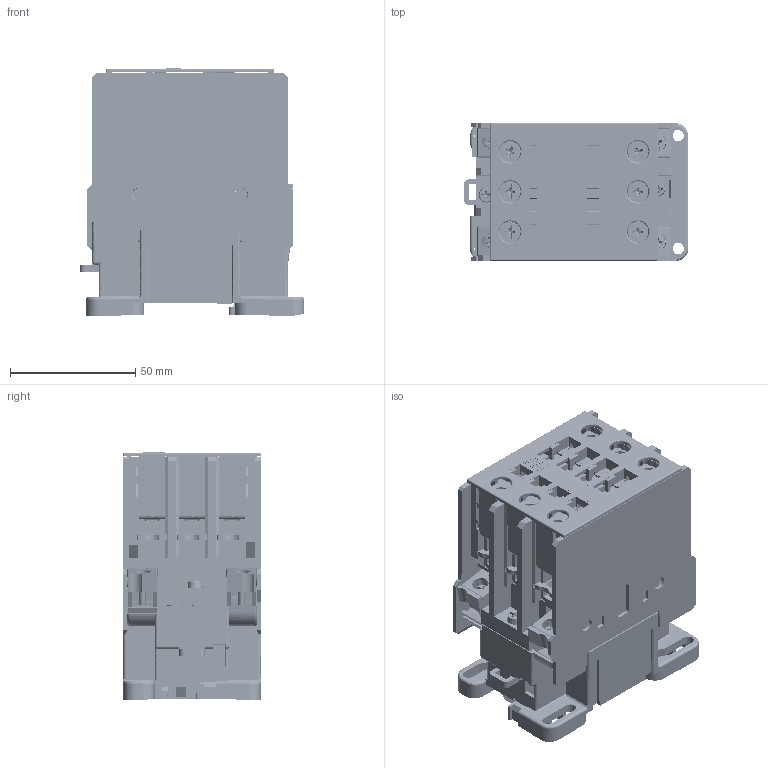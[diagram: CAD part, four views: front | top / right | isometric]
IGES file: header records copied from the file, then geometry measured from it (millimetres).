
Start section: SolidWorks IGES file using analytic representation for surfaces
Global section: file name: Q:\GROUPS\BR_SC_JGS_WA_TECNICO\ENG\Usuarios\Rodrigob\conversão\contatores\Produto\CWM32...40\CWM32...40.IGS; native system: SolidWorks 2012; preprocessor: SolidWorks 2012; author: rodrigob; date: 130405.085614; units: millimetre
Bounding box: 89.5 x 55.14 x 98.65 mm (x, y, z)
Surface area: 130482.6 mm2 (no closed solid volume)
Topology: 0 solids, 0 shells, 4483 faces, 36938 edges, 36897 vertices
Faces by surface type: bspline 3307, revolution 1176
